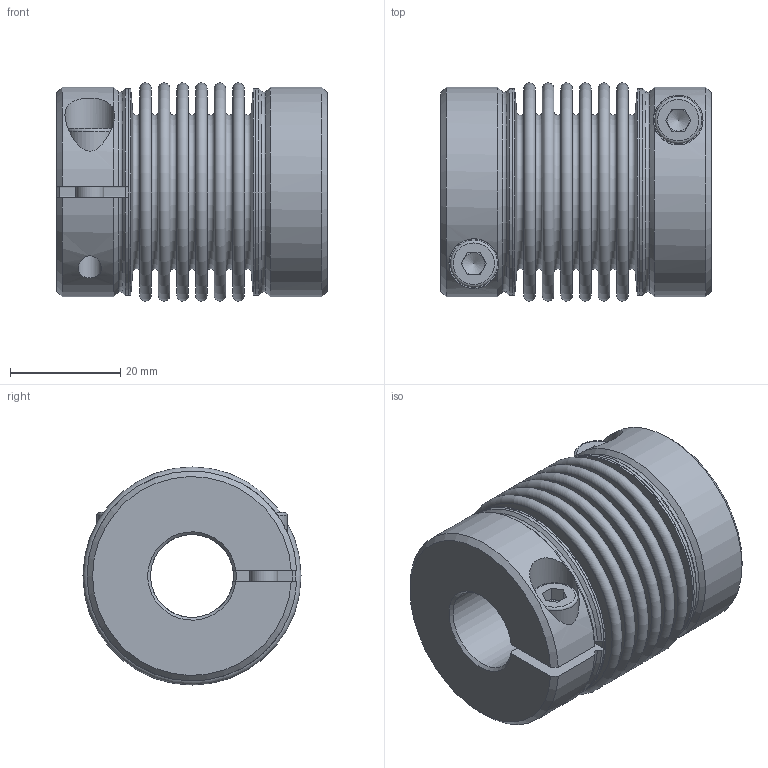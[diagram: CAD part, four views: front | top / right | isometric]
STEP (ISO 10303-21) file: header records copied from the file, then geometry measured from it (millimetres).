
FILE_DESCRIPTION(/* description */ ('Unknown','CAx-IF Rec.Pracs.---Representation and Presentation of Product Manufacturing Information (PMI)---4.0---2014-10-13','CAx-IF Rec.Pracs.---3D Tessellated Geometry---0.4---2014-09-14','2;1'),/* implementation_level */ '2;1');
FILE_NAME(/* name */ 'MB-13324689',/* time_stamp */ '2023-07-20T08:29:19+02:00',/* author */ ('Unknown'),/* organization */ ('Unknown'),/* preprocessor_version */ 'ST-DEVELOPER v18.102',/* originating_system */ 'Solid Edge',/* authorisation */ 'Unknown');
FILE_SCHEMA (('AP242_MANAGED_MODEL_BASED_3D_ENGINEERING_MIM_LF { 1 0 10303 442 1 1 4 }'));
Length unit declared in the file: millimetre
Products named in the file (4): MB-13324689; 20723665; 28820305; kt102308
Assembly tree (5 placements, depth 2):
  MB-13324689
    20723665
    28820305  x2
    kt102308  x2
Bounding box: 49.02 x 39.5 x 39.5 mm (x, y, z)
Volume: 26447.6 mm3; surface area: 30241.6 mm2
Topology: 5 solids, 5 shells, 142 faces, 300 edges, 194 vertices
Faces by surface type: plane 66, torus 30, cylinder 24, cone 22
Full cylindrical faces by diameter (mm): 4.2 x2, 5 x6, 5.4 x2, 8.5 x2, 9 x2, 36.5 x2, 37.5 x2
Entity records: 2480 total; most frequent: CARTESIAN_POINT 449, DIRECTION 438, ORIENTED_EDGE 282, AXIS2_PLACEMENT_3D 202, FACE_BOUND 181, EDGE_LOOP 178, EDGE_CURVE 141, VERTEX_POINT 120
